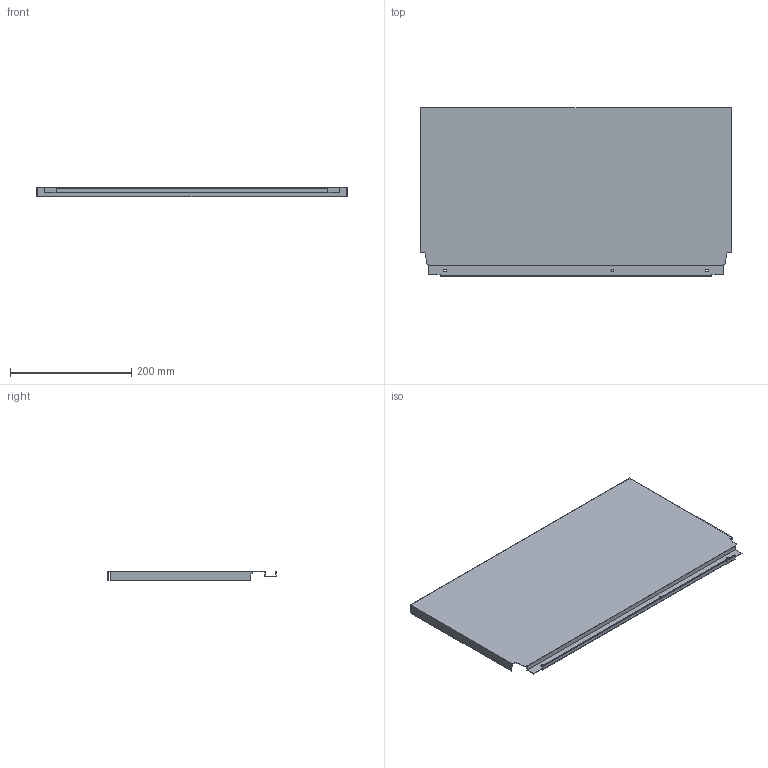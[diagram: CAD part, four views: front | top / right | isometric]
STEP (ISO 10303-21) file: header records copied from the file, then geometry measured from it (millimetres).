
FILE_DESCRIPTION (( 'STEP AP214' ), '1' );
FILE_NAME ('_DWD_XP Stahlrückwand_H278_KAB600_S18.step', '2010-07-08T13:03:57', ( 'grass' ), ( '' ), 'SwSTEP 2.0', 'SolidWorks 2010', '' );
FILE_SCHEMA (( 'AUTOMOTIVE_DESIGN' ));
Length unit declared in the file: millimetre
Products named in the file (1): _DWD_XP Stahlrückwand_H278_KAB600_S18
Bounding box: 513 x 278.57 x 16 mm (x, y, z)
Volume: 144166.2 mm3; surface area: 329136.8 mm2
Topology: 1 solids, 1 shells, 46 faces, 132 edges, 88 vertices
Faces by surface type: plane 40, cylinder 6
Entity records: 1534 total; most frequent: CARTESIAN_POINT 267, ORIENTED_EDGE 264, DIRECTION 238, EDGE_CURVE 132, LINE 120, VECTOR 120, VERTEX_POINT 88, AXIS2_PLACEMENT_3D 59
